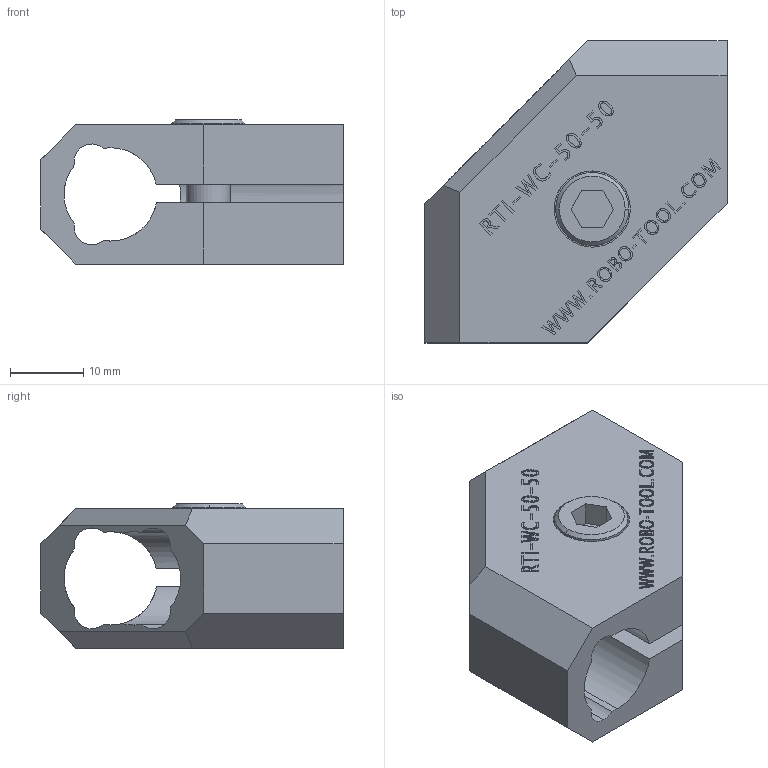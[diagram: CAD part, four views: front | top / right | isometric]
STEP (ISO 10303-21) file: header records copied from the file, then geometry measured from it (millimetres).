
FILE_DESCRIPTION (( 'STEP AP214' ), '1' );
FILE_NAME ('RTI-WC-50-50.STEP', '2013-10-22T20:22:43', ( 'user' ), ( '' ), 'SwSTEP 2.0', 'SolidWorks 2009', '' );
FILE_SCHEMA (( 'AUTOMOTIVE_DESIGN' ));
Length unit declared in the file: inch
Products named in the file (4): RTI-WC-50-50; M6 S.H.C.S._M6x12mm; M6 WASHER
Assembly tree (3 placements, depth 2):
  RTI-WC-50-50
    M6 WASHER
    RTI-WC-50-50
    M6 S.H.C.S._M6x12mm
Bounding box: 41.27 x 41.27 x 19.7 mm (x, y, z)
Volume: 14705.1 mm3; surface area: 8307.2 mm2
Topology: 3 solids, 3 shells, 366 faces, 950 edges, 632 vertices
Faces by surface type: plane 232, bspline 102, cylinder 28, cone 4
Entity records: 17937 total; most frequent: CARTESIAN_POINT 9488, ORIENTED_EDGE 1900, DIRECTION 1316, EDGE_CURVE 950, VECTOR 684, LINE 684, VERTEX_POINT 632, EDGE_LOOP 416
